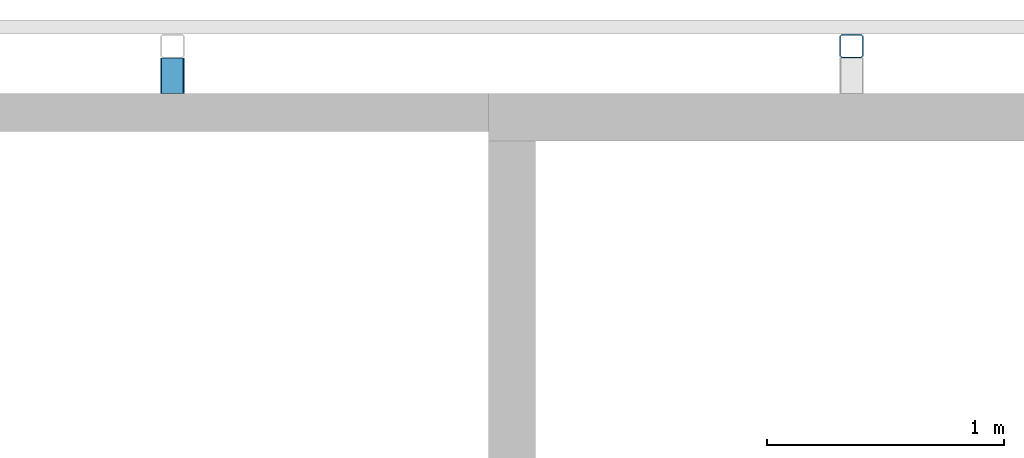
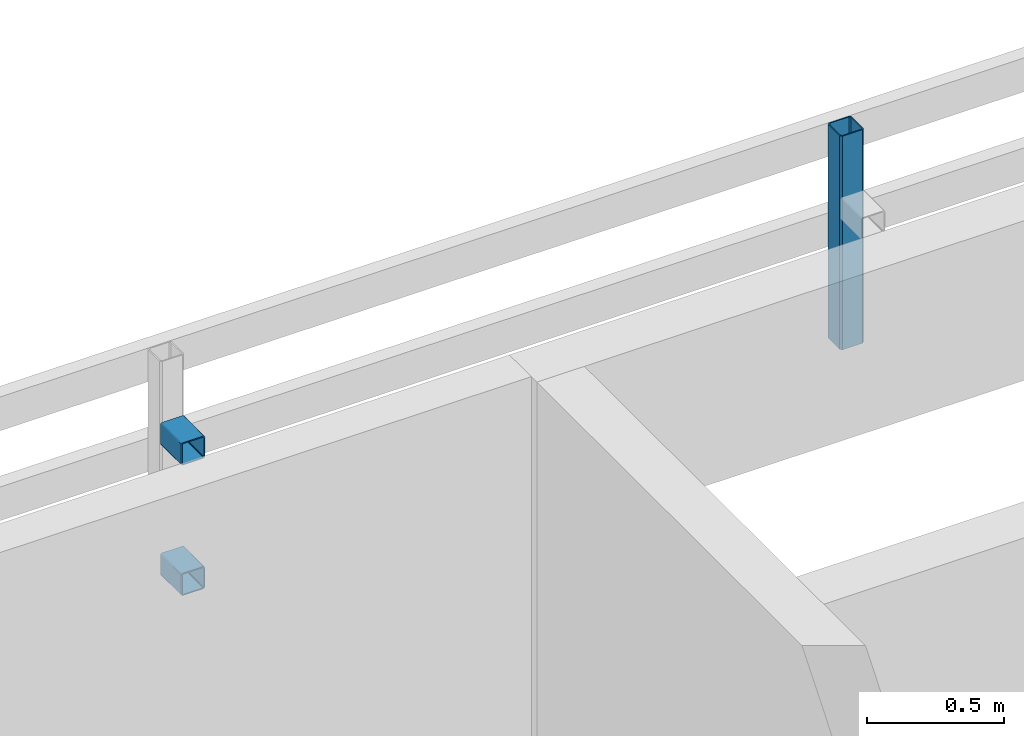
# One storey, part 30 of 42: 3 members.
"""IFC4 building model written with IfcOpenShell, lengths in metres."""

from ifc_helpers import new_model, entity, si_unit, converted_unit, derived_unit, frame, origin, place, context, subcontext, project, spatial, faceted_brep, material, element, save


model = new_model("IFC4")

# Units and contexts
model_context = context("Model", 3, precision=1e-05, world=origin())
plan_context = context("Plan", 2, precision=1e-05, world=origin())
body_context = subcontext(model_context, "Body", "Model", "MODEL_VIEW")
ifc_project = project(units=[si_unit("LENGTHUNIT", "METRE"), si_unit("AREAUNIT", "SQUARE_METRE"), si_unit("VOLUMEUNIT", "CUBIC_METRE"), si_unit("MASSUNIT", "GRAM", prefix="KILO"), converted_unit("PLANEANGLEUNIT", "DEGREE", entity("IfcPlaneAngleMeasure", 0.0174532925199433), si_unit("PLANEANGLEUNIT", "RADIAN"), dimensions=[0, 0, 0, 0, 0, 0, 0]), derived_unit("THERMALTRANSMITTANCEUNIT", [(si_unit("POWERUNIT", "WATT"), 1), (si_unit("THERMODYNAMICTEMPERATUREUNIT", "KELVIN"), -1), (si_unit("LENGTHUNIT", "METRE"), -2)]), derived_unit("VOLUMETRICFLOWRATEUNIT", [(si_unit("LENGTHUNIT", "METRE"), 3), (converted_unit("TIMEUNIT", "hour", entity("IfcTimeMeasure", 3600.0), si_unit("TIMEUNIT", "SECOND"), dimensions=[0, 0, 1, 0, 0, 0, 0]), -1), (si_unit("LENGTHUNIT", "METRE"), -1)])], contexts=[model_context, plan_context])

# Site, building, storey
site_placement = place(None, origin())
site = spatial("IfcSite", under=ifc_project, at=site_placement, Name="Site", CompositionType="ELEMENT")
building_placement = place(site_placement, origin())
building = spatial("IfcBuilding", under=site, at=building_placement, Name="Admin", CompositionType="ELEMENT")
storey_placement = place(building_placement, frame((0.0, 0.0, 6.61)))
storey = spatial("IfcBuildingStorey", under=building, at=storey_placement, Name="02-Etage2", CompositionType="ELEMENT", Elevation=6.61)

# Members
ifc_material_1 = material(Name="S235")
member_1_placement = place(storey_placement, frame((49.6398005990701, 22.4994493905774, 2.28)))
element("IfcMember", 1, at=member_1_placement, inside=storey, material=ifc_material_1, Name="Bandeau R+2", context=body_context, shape_type="Brep", body=[
    faceted_brep([(0.09, 0.005, 0.0), (0.09, 0.005, 0.95), (0.01, 0.005, 0.95), (0.01, 0.005, 0.0), (0.095, 0.01, 0.0), (0.095, 0.01, 0.95), (0.095, 0.09, 0.0), (0.095, 0.09, 0.95), (0.09, 0.095, 0.0), (0.09, 0.095, 0.95), (0.01, 0.095, 0.0), (0.01, 0.095, 0.95), (0.005, 0.09, 0.0), (0.005, 0.09, 0.95), (0.005, 0.01, 0.0), (0.005, 0.01, 0.95), (0.0, 0.0075, 0.0), (0.0, 0.0075, 0.95), (0.0075, 0.0, 0.95), (0.0075, 0.0, 0.0), (0.0, 0.0925, 0.0), (0.0, 0.0925, 0.95), (0.0075, 0.1, 0.0), (0.0075, 0.1, 0.95), (0.0925, 0.1, 0.0), (0.0925, 0.1, 0.95), (0.1, 0.0925, 0.0), (0.1, 0.0925, 0.95), (0.1, 0.0075, 0.0), (0.1, 0.0075, 0.95), (0.0925, 0.0, 0.0), (0.0925, 0.0, 0.95)], [[[0, 1, 2, 3]], [[4, 5, 1, 0]], [[6, 7, 5, 4]], [[8, 9, 7, 6]], [[10, 11, 9, 8]], [[12, 13, 11, 10]], [[14, 15, 13, 12]], [[3, 2, 15, 14]], [[16, 17, 18, 19]], [[20, 21, 17, 16]], [[22, 23, 21, 20]], [[24, 25, 23, 22]], [[26, 27, 25, 24]], [[28, 29, 27, 26]], [[30, 31, 29, 28]], [[19, 18, 31, 30]], [[18, 17, 21, 23, 25, 27, 29, 31], [2, 1, 5, 7, 9, 11, 13, 15]], [[19, 30, 28, 26, 24, 22, 20, 16], [3, 14, 12, 10, 8, 6, 4, 0]]], orient=[[False], [False], [False], [False], [False], [False], [False], [False], [False], [False], [False], [False], [False], [False], [False], [False], [False, False], [False, False]]),
])
ifc_material_2 = material(Name="S235")
member_2_placement = place(storey_placement, frame((46.7798005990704, 22.3494493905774, 2.86)))
element("IfcMember", 2, at=member_2_placement, inside=storey, material=ifc_material_2, Name="Bandeau R+2", context=body_context, shape_type="Brep", body=[
    faceted_brep([(0.0050000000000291, 0.149999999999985, 0.09), (0.0050000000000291, 0.149999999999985, 0.01), (0.00500000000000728, 1.09139364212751e-14, 0.01), (0.00500000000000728, 1.09139364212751e-14, 0.09), (0.00507596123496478, 0.149999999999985, 0.0908682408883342), (0.00507596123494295, 1.09139364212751e-14, 0.0908682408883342), (0.0053015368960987, 0.149999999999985, 0.0917101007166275), (0.00530153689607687, 1.09139364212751e-14, 0.0917101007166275), (0.00566987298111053, 0.149999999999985, 0.0925), (0.0056698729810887, 1.09139364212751e-14, 0.0925), (0.00616977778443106, 0.149999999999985, 0.0932139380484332), (0.00616977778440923, 1.09139364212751e-14, 0.0932139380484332), (0.00678606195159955, 0.149999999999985, 0.0938302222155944), (0.00678606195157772, 1.09139364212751e-14, 0.0938302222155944), (0.0075000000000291, 0.149999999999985, 0.0943301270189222), (0.00750000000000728, 1.09139364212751e-14, 0.0943301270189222), (0.00828989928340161, 0.149999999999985, 0.0946984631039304), (0.00828989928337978, 1.09139364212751e-14, 0.0946984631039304), (0.00913175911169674, 0.149999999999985, 0.0949240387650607), (0.00913175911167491, 1.09139364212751e-14, 0.0949240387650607), (0.0100000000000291, 0.149999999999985, 0.095), (0.0100000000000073, 1.09139364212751e-14, 0.095), (0.0900000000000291, 0.149999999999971, 0.095), (0.0900000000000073, -3.63797880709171e-15, 0.095), (0.0908682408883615, 0.149999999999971, 0.0949240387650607), (0.0908682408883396, -3.63797880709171e-15, 0.0949240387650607), (0.0917101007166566, 0.149999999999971, 0.0946984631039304), (0.0917101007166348, -3.63797880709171e-15, 0.0946984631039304), (0.0925000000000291, 0.149999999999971, 0.0943301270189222), (0.0925000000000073, -3.63797880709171e-15, 0.0943301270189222), (0.0932139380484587, 0.149999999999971, 0.0938302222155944), (0.0932139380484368, -3.63797880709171e-15, 0.0938302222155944), (0.0938302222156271, 0.149999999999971, 0.0932139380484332), (0.0938302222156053, -3.63797880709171e-15, 0.0932139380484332), (0.0943301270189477, 0.149999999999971, 0.0925), (0.0943301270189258, -3.63797880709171e-15, 0.0925), (0.0946984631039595, 0.149999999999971, 0.0917101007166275), (0.0946984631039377, -3.63797880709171e-15, 0.0917101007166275), (0.0949240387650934, 0.149999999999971, 0.0908682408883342), (0.0949240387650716, -3.63797880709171e-15, 0.0908682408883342), (0.0950000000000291, 0.149999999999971, 0.09), (0.0950000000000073, -3.63797880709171e-15, 0.09), (0.0950000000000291, 0.149999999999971, 0.01), (0.0950000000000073, -3.63797880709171e-15, 0.01), (0.0949240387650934, 0.149999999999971, 0.00913175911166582), (0.0949240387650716, -3.63797880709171e-15, 0.00913175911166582), (0.0946984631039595, 0.149999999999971, 0.00828989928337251), (0.0946984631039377, -3.63797880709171e-15, 0.00828989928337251), (0.0943301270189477, 0.149999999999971, 0.0075), (0.0943301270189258, -3.63797880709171e-15, 0.0075), (0.0938302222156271, 0.149999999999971, 0.00678606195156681), (0.0938302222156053, -3.63797880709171e-15, 0.00678606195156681), (0.0932139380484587, 0.149999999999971, 0.0061697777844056), (0.0932139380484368, -3.63797880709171e-15, 0.0061697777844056), (0.0925000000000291, 0.149999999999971, 0.00566987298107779), (0.0925000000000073, -3.63797880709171e-15, 0.00566987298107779), (0.0917101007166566, 0.149999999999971, 0.00530153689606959), (0.0917101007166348, -3.63797880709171e-15, 0.00530153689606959), (0.0908682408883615, 0.149999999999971, 0.00507596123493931), (0.0908682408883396, -3.63797880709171e-15, 0.00507596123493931), (0.0900000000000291, 0.149999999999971, 0.005), (0.0900000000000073, -3.63797880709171e-15, 0.005), (0.0100000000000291, 0.149999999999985, 0.005), (0.0100000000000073, 1.09139364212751e-14, 0.005), (0.00913175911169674, 0.149999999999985, 0.00507596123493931), (0.00913175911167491, 1.09139364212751e-14, 0.00507596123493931), (0.00828989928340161, 0.149999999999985, 0.00530153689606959), (0.00828989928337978, 1.09139364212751e-14, 0.00530153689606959), (0.0075000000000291, 0.149999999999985, 0.00566987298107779), (0.00750000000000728, 1.09139364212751e-14, 0.00566987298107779), (0.00678606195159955, 0.149999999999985, 0.0061697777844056), (0.00678606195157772, 1.09139364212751e-14, 0.0061697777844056), (0.00616977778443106, 0.149999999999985, 0.00678606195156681), (0.00616977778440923, 1.09139364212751e-14, 0.00678606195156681), (0.00566987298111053, 0.149999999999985, 0.0075), (0.0056698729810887, 1.09139364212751e-14, 0.0075), (0.0053015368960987, 0.149999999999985, 0.00828989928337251), (0.00530153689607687, 1.09139364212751e-14, 0.00828989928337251), (0.00507596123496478, 0.149999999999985, 0.00913175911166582), (0.00507596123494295, 1.09139364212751e-14, 0.00913175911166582), (0.0925000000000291, 0.149999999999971, 0.1), (0.0938023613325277, 0.149999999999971, 0.099886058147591), (0.0938023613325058, -3.63797880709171e-15, 0.099886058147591), (0.0925000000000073, -3.63797880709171e-15, 0.1), (0.0075000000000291, 0.149999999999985, 0.1), (0.00750000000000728, 1.09139364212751e-14, 0.1), (0.00619763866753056, 0.149999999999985, 0.099886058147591), (0.00619763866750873, 1.09139364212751e-14, 0.099886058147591), (0.00493484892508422, 0.149999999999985, 0.0995476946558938), (0.0049348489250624, 1.09139364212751e-14, 0.0995476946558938), (0.0037500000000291, 0.149999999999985, 0.0989951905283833), (0.00375000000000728, 1.09139364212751e-14, 0.0989951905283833), (0.0026790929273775, 0.149999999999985, 0.0982453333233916), (0.00267909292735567, 1.09139364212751e-14, 0.0982453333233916), (0.00175466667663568, 0.149999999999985, 0.0973209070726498), (0.00175466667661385, 1.09139364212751e-14, 0.0973209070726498), (0.0010048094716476, 0.149999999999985, 0.09625), (0.00100480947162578, 1.09139364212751e-14, 0.09625), (0.00045230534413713, 0.149999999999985, 0.0950651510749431), (0.000452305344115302, 1.09139364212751e-14, 0.0950651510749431), (0.000113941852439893, 0.149999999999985, 0.0938023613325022), (0.000113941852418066, 1.09139364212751e-14, 0.0938023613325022), (2.91038304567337e-14, 0.149999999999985, 0.0925), (0.0, 1.09139364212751e-14, 0.0925), (0.000113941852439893, 0.149999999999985, 0.00619763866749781), (2.91038304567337e-14, 0.149999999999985, 0.0075), (7.27595761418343e-15, 1.09139364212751e-14, 0.0075), (0.000113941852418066, 1.09139364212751e-14, 0.00619763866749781), (0.00045230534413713, 0.149999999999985, 0.00493484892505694), (0.000452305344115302, 1.09139364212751e-14, 0.00493484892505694), (0.0010048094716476, 0.149999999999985, 0.00375), (0.00100480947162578, 1.09139364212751e-14, 0.00375), (0.00175466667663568, 0.149999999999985, 0.00267909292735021), (0.00175466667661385, 1.09139364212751e-14, 0.00267909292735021), (0.0026790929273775, 0.149999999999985, 0.00175466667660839), (0.00267909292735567, 1.09139364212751e-14, 0.00175466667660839), (0.0037500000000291, 0.149999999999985, 0.00100480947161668), (0.00375000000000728, 1.09139364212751e-14, 0.00100480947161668), (0.00493484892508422, 0.149999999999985, 0.000452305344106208), (0.0049348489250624, 1.09139364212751e-14, 0.000452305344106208), (0.00619763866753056, 0.149999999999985, 0.000113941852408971), (0.00619763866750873, 1.09139364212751e-14, 0.000113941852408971), (0.0075000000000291, 0.149999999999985, 0.0), (0.00750000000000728, 1.09139364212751e-14, 0.0), (0.0925000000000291, 0.149999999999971, 0.0), (0.0925000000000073, -3.63797880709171e-15, 0.0), (0.0938023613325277, 0.149999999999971, 0.000113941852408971), (0.0938023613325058, -3.63797880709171e-15, 0.000113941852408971), (0.095065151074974, 0.149999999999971, 0.000452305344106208), (0.0950651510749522, -3.63797880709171e-15, 0.000452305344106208), (0.0962500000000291, 0.149999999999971, 0.00100480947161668), (0.0962500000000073, -3.63797880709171e-15, 0.00100480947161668), (0.0973209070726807, 0.149999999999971, 0.00175466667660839), (0.0973209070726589, -3.63797880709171e-15, 0.00175466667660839), (0.0982453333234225, 0.149999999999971, 0.00267909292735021), (0.0982453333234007, -3.63797880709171e-15, 0.00267909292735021), (0.0989951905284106, 0.149999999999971, 0.00375), (0.0989951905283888, -3.63797880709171e-15, 0.00375), (0.0995476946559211, 0.149999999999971, 0.00493484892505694), (0.0995476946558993, -3.63797880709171e-15, 0.00493484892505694), (0.0998860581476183, 0.149999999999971, 0.00619763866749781), (0.0998860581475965, -3.63797880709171e-15, 0.00619763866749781), (0.100000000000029, 0.149999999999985, 0.0075), (0.100000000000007, -3.63797880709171e-15, 0.0075), (0.0998860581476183, 0.149999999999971, 0.0938023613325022), (0.100000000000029, 0.149999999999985, 0.0925), (0.100000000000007, -3.63797880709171e-15, 0.0925), (0.0998860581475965, -3.63797880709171e-15, 0.0938023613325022), (0.0995476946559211, 0.149999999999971, 0.0950651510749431), (0.0995476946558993, -3.63797880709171e-15, 0.0950651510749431), (0.0989951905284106, 0.149999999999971, 0.09625), (0.0989951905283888, -3.63797880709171e-15, 0.09625), (0.0982453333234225, 0.149999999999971, 0.0973209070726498), (0.0982453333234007, -3.63797880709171e-15, 0.0973209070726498), (0.0973209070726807, 0.149999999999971, 0.0982453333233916), (0.0973209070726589, -3.63797880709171e-15, 0.0982453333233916), (0.0962500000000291, 0.149999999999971, 0.0989951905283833), (0.0962500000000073, -3.63797880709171e-15, 0.0989951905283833), (0.095065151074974, 0.149999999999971, 0.0995476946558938), (0.0950651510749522, -3.63797880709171e-15, 0.0995476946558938)], [[[0, 1, 2, 3]], [[4, 0, 3, 5]], [[6, 4, 5, 7]], [[8, 6, 7, 9]], [[10, 8, 9, 11]], [[12, 10, 11, 13]], [[14, 12, 13, 15]], [[16, 14, 15, 17]], [[18, 16, 17, 19]], [[20, 18, 19, 21]], [[22, 20, 21, 23]], [[24, 22, 23, 25]], [[26, 24, 25, 27]], [[28, 26, 27, 29]], [[30, 28, 29, 31]], [[32, 30, 31, 33]], [[34, 32, 33, 35]], [[36, 34, 35, 37]], [[38, 36, 37, 39]], [[40, 38, 39, 41]], [[42, 40, 41, 43]], [[44, 42, 43, 45]], [[46, 44, 45, 47]], [[48, 46, 47, 49]], [[50, 48, 49, 51]], [[52, 50, 51, 53]], [[54, 52, 53, 55]], [[56, 54, 55, 57]], [[58, 56, 57, 59]], [[60, 58, 59, 61]], [[62, 60, 61, 63]], [[64, 62, 63, 65]], [[66, 64, 65, 67]], [[68, 66, 67, 69]], [[70, 68, 69, 71]], [[72, 70, 71, 73]], [[74, 72, 73, 75]], [[76, 74, 75, 77]], [[78, 76, 77, 79]], [[1, 78, 79, 2]], [[80, 81, 82, 83]], [[84, 80, 83, 85]], [[86, 84, 85, 87]], [[88, 86, 87, 89]], [[90, 88, 89, 91]], [[92, 90, 91, 93]], [[94, 92, 93, 95]], [[96, 94, 95, 97]], [[98, 96, 97, 99]], [[100, 98, 99, 101]], [[102, 100, 101, 103]], [[104, 105, 106, 107]], [[108, 104, 107, 109]], [[110, 108, 109, 111]], [[112, 110, 111, 113]], [[114, 112, 113, 115]], [[116, 114, 115, 117]], [[118, 116, 117, 119]], [[120, 118, 119, 121]], [[122, 120, 121, 123]], [[124, 122, 123, 125]], [[126, 124, 125, 127]], [[128, 126, 127, 129]], [[130, 128, 129, 131]], [[132, 130, 131, 133]], [[134, 132, 133, 135]], [[136, 134, 135, 137]], [[138, 136, 137, 139]], [[140, 138, 139, 141]], [[142, 140, 141, 143]], [[144, 145, 146, 147]], [[148, 144, 147, 149]], [[150, 148, 149, 151]], [[152, 150, 151, 153]], [[154, 152, 153, 155]], [[156, 154, 155, 157]], [[158, 156, 157, 159]], [[81, 158, 159, 82]], [[146, 143, 141, 139, 137, 135, 133, 131, 129, 127, 125, 123, 121, 119, 117, 115, 113, 111, 109, 107, 106, 103, 101, 99, 97, 95, 93, 91, 89, 87, 85, 83, 82, 159, 157, 155, 153, 151, 149, 147], [2, 79, 77, 75, 73, 71, 69, 67, 65, 63, 61, 59, 57, 55, 53, 51, 49, 47, 45, 43, 41, 39, 37, 35, 33, 31, 29, 27, 25, 23, 21, 19, 17, 15, 13, 11, 9, 7, 5, 3]], [[103, 106, 105, 102]], [[102, 105, 104, 108, 110, 112, 114, 116, 118, 120, 122, 124, 126, 128, 130, 132, 134, 136, 138, 140, 142, 145, 144, 148, 150, 152, 154, 156, 158, 81, 80, 84, 86, 88, 90, 92, 94, 96, 98, 100], [1, 0, 4, 6, 8, 10, 12, 14, 16, 18, 20, 22, 24, 26, 28, 30, 32, 34, 36, 38, 40, 42, 44, 46, 48, 50, 52, 54, 56, 58, 60, 62, 64, 66, 68, 70, 72, 74, 76, 78]], [[145, 142, 143, 146]]], orient=[[False], [False], [False], [False], [False], [False], [False], [False], [False], [False], [False], [False], [False], [False], [False], [False], [False], [False], [False], [False], [False], [False], [False], [False], [False], [False], [False], [False], [False], [False], [False], [False], [False], [False], [False], [False], [False], [False], [False], [False], [False], [False], [False], [False], [False], [False], [False], [False], [False], [False], [False], [False], [False], [False], [False], [False], [False], [False], [False], [False], [False], [False], [False], [False], [False], [False], [False], [False], [False], [False], [False], [False], [False], [False], [False], [False], [False], [False], [False, False], [False], [False, False], [False]]),
])
ifc_material_3 = material(Name="S235")
member_3_placement = place(storey_placement, frame((46.7798005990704, 22.3494493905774, 2.28)))
element("IfcMember", 3, at=member_3_placement, inside=storey, material=ifc_material_3, Name="Bandeau R+2", context=body_context, shape_type="Brep", body=[
    faceted_brep([(0.0050000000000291, 0.15, 0.09), (0.0050000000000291, 0.15, 0.01), (0.00500000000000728, 1.81898940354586e-14, 0.01), (0.00500000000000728, 1.81898940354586e-14, 0.09), (0.00507596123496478, 0.15, 0.0908682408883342), (0.00507596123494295, 1.81898940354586e-14, 0.0908682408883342), (0.0053015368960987, 0.15, 0.0917101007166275), (0.00530153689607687, 1.81898940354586e-14, 0.0917101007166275), (0.00566987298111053, 0.15, 0.0925), (0.0056698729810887, 1.81898940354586e-14, 0.0925), (0.00616977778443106, 0.15, 0.0932139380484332), (0.00616977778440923, 1.81898940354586e-14, 0.0932139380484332), (0.00678606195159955, 0.15, 0.0938302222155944), (0.00678606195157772, 1.81898940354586e-14, 0.0938302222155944), (0.0075000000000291, 0.15, 0.0943301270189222), (0.00750000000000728, 1.81898940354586e-14, 0.0943301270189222), (0.00828989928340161, 0.15, 0.0946984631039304), (0.00828989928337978, 1.81898940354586e-14, 0.0946984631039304), (0.00913175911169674, 0.15, 0.0949240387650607), (0.00913175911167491, 1.81898940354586e-14, 0.0949240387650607), (0.0100000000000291, 0.15, 0.095), (0.0100000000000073, 1.81898940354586e-14, 0.095), (0.0900000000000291, 0.149999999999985, 0.095), (0.0900000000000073, 3.63797880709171e-15, 0.095), (0.0908682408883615, 0.149999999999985, 0.0949240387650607), (0.0908682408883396, 3.63797880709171e-15, 0.0949240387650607), (0.0917101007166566, 0.149999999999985, 0.0946984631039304), (0.0917101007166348, 3.63797880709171e-15, 0.0946984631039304), (0.0925000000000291, 0.149999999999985, 0.0943301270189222), (0.0925000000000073, 3.63797880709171e-15, 0.0943301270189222), (0.0932139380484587, 0.149999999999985, 0.0938302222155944), (0.0932139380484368, 3.63797880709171e-15, 0.0938302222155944), (0.0938302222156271, 0.149999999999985, 0.0932139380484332), (0.0938302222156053, 3.63797880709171e-15, 0.0932139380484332), (0.0943301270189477, 0.149999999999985, 0.0925), (0.0943301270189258, 3.63797880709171e-15, 0.0925), (0.0946984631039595, 0.149999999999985, 0.0917101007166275), (0.0946984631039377, 3.63797880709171e-15, 0.0917101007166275), (0.0949240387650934, 0.149999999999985, 0.0908682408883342), (0.0949240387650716, 3.63797880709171e-15, 0.0908682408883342), (0.0950000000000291, 0.149999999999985, 0.09), (0.0950000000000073, 3.63797880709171e-15, 0.09), (0.0950000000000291, 0.149999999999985, 0.01), (0.0950000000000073, 3.63797880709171e-15, 0.01), (0.0949240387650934, 0.149999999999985, 0.00913175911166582), (0.0949240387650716, 3.63797880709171e-15, 0.00913175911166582), (0.0946984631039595, 0.149999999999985, 0.00828989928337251), (0.0946984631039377, 3.63797880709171e-15, 0.00828989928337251), (0.0943301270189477, 0.149999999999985, 0.0075), (0.0943301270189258, 3.63797880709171e-15, 0.0075), (0.0938302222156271, 0.149999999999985, 0.00678606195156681), (0.0938302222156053, 3.63797880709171e-15, 0.00678606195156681), (0.0932139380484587, 0.149999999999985, 0.0061697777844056), (0.0932139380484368, 3.63797880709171e-15, 0.0061697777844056), (0.0925000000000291, 0.149999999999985, 0.00566987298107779), (0.0925000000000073, 3.63797880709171e-15, 0.00566987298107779), (0.0917101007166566, 0.149999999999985, 0.00530153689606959), (0.0917101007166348, 3.63797880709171e-15, 0.00530153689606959), (0.0908682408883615, 0.149999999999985, 0.00507596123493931), (0.0908682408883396, 3.63797880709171e-15, 0.00507596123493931), (0.0900000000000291, 0.149999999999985, 0.005), (0.0900000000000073, 3.63797880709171e-15, 0.005), (0.0100000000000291, 0.15, 0.005), (0.0100000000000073, 1.81898940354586e-14, 0.005), (0.00913175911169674, 0.15, 0.00507596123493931), (0.00913175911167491, 1.81898940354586e-14, 0.00507596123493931), (0.00828989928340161, 0.15, 0.00530153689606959), (0.00828989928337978, 1.81898940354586e-14, 0.00530153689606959), (0.0075000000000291, 0.15, 0.00566987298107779), (0.00750000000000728, 1.81898940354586e-14, 0.00566987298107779), (0.00678606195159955, 0.15, 0.0061697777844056), (0.00678606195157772, 1.81898940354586e-14, 0.0061697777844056), (0.00616977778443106, 0.15, 0.00678606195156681), (0.00616977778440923, 1.81898940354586e-14, 0.00678606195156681), (0.00566987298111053, 0.15, 0.0075), (0.0056698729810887, 1.81898940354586e-14, 0.0075), (0.0053015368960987, 0.15, 0.00828989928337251), (0.00530153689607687, 1.81898940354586e-14, 0.00828989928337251), (0.00507596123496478, 0.15, 0.00913175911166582), (0.00507596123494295, 1.81898940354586e-14, 0.00913175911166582), (0.0925000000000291, 0.149999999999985, 0.1), (0.0938023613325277, 0.149999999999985, 0.099886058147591), (0.0938023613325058, 3.63797880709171e-15, 0.099886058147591), (0.0925000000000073, 3.63797880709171e-15, 0.1), (0.0075000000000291, 0.15, 0.1), (0.00750000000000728, 1.81898940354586e-14, 0.1), (0.00619763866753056, 0.15, 0.099886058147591), (0.00619763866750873, 1.81898940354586e-14, 0.099886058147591), (0.00493484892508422, 0.15, 0.0995476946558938), (0.0049348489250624, 1.81898940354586e-14, 0.0995476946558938), (0.0037500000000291, 0.15, 0.0989951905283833), (0.00375000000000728, 1.81898940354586e-14, 0.0989951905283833), (0.0026790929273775, 0.15, 0.0982453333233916), (0.00267909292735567, 1.81898940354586e-14, 0.0982453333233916), (0.00175466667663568, 0.15, 0.0973209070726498), (0.00175466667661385, 1.81898940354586e-14, 0.0973209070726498), (0.0010048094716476, 0.15, 0.09625), (0.00100480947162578, 1.81898940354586e-14, 0.09625), (0.00045230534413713, 0.15, 0.0950651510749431), (0.000452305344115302, 1.81898940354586e-14, 0.0950651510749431), (0.000113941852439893, 0.15, 0.0938023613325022), (0.000113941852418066, 1.81898940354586e-14, 0.0938023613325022), (2.91038304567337e-14, 0.15, 0.0925), (0.0, 1.81898940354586e-14, 0.0925), (0.000113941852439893, 0.15, 0.00619763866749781), (2.91038304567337e-14, 0.15, 0.0075), (7.27595761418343e-15, 1.81898940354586e-14, 0.0075), (0.000113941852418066, 1.81898940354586e-14, 0.00619763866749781), (0.00045230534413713, 0.15, 0.00493484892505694), (0.000452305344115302, 1.81898940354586e-14, 0.00493484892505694), (0.0010048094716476, 0.15, 0.00375), (0.00100480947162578, 1.81898940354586e-14, 0.00375), (0.00175466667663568, 0.15, 0.00267909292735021), (0.00175466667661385, 1.81898940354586e-14, 0.00267909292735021), (0.0026790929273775, 0.15, 0.00175466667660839), (0.00267909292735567, 1.81898940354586e-14, 0.00175466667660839), (0.0037500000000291, 0.15, 0.00100480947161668), (0.00375000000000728, 1.81898940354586e-14, 0.00100480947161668), (0.00493484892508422, 0.15, 0.000452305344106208), (0.0049348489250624, 1.81898940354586e-14, 0.000452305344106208), (0.00619763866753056, 0.15, 0.000113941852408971), (0.00619763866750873, 1.81898940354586e-14, 0.000113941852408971), (0.0075000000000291, 0.15, 0.0), (0.00750000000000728, 1.81898940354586e-14, 0.0), (0.0925000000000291, 0.149999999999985, 0.0), (0.0925000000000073, 3.63797880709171e-15, 0.0), (0.0938023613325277, 0.149999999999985, 0.000113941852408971), (0.0938023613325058, 3.63797880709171e-15, 0.000113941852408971), (0.095065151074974, 0.149999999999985, 0.000452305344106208), (0.0950651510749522, 3.63797880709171e-15, 0.000452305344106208), (0.0962500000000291, 0.149999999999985, 0.00100480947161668), (0.0962500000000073, 3.63797880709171e-15, 0.00100480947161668), (0.0973209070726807, 0.149999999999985, 0.00175466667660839), (0.0973209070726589, 3.63797880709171e-15, 0.00175466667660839), (0.0982453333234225, 0.149999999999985, 0.00267909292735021), (0.0982453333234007, 3.63797880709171e-15, 0.00267909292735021), (0.0989951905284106, 0.149999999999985, 0.00375), (0.0989951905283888, 3.63797880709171e-15, 0.00375), (0.0995476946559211, 0.149999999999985, 0.00493484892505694), (0.0995476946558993, 3.63797880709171e-15, 0.00493484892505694), (0.0998860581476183, 0.149999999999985, 0.00619763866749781), (0.0998860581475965, 3.63797880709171e-15, 0.00619763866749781), (0.100000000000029, 0.15, 0.0075), (0.100000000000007, 3.63797880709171e-15, 0.0075), (0.0998860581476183, 0.149999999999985, 0.0938023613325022), (0.100000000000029, 0.15, 0.0925), (0.100000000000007, 3.63797880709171e-15, 0.0925), (0.0998860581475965, 3.63797880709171e-15, 0.0938023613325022), (0.0995476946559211, 0.149999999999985, 0.0950651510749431), (0.0995476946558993, 3.63797880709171e-15, 0.0950651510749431), (0.0989951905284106, 0.149999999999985, 0.09625), (0.0989951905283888, 3.63797880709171e-15, 0.09625), (0.0982453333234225, 0.149999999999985, 0.0973209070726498), (0.0982453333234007, 3.63797880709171e-15, 0.0973209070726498), (0.0973209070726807, 0.149999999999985, 0.0982453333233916), (0.0973209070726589, 3.63797880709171e-15, 0.0982453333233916), (0.0962500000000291, 0.149999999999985, 0.0989951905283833), (0.0962500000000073, 3.63797880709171e-15, 0.0989951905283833), (0.095065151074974, 0.149999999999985, 0.0995476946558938), (0.0950651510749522, 3.63797880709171e-15, 0.0995476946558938)], [[[0, 1, 2, 3]], [[4, 0, 3, 5]], [[6, 4, 5, 7]], [[8, 6, 7, 9]], [[10, 8, 9, 11]], [[12, 10, 11, 13]], [[14, 12, 13, 15]], [[16, 14, 15, 17]], [[18, 16, 17, 19]], [[20, 18, 19, 21]], [[22, 20, 21, 23]], [[24, 22, 23, 25]], [[26, 24, 25, 27]], [[28, 26, 27, 29]], [[30, 28, 29, 31]], [[32, 30, 31, 33]], [[34, 32, 33, 35]], [[36, 34, 35, 37]], [[38, 36, 37, 39]], [[40, 38, 39, 41]], [[42, 40, 41, 43]], [[44, 42, 43, 45]], [[46, 44, 45, 47]], [[48, 46, 47, 49]], [[50, 48, 49, 51]], [[52, 50, 51, 53]], [[54, 52, 53, 55]], [[56, 54, 55, 57]], [[58, 56, 57, 59]], [[60, 58, 59, 61]], [[62, 60, 61, 63]], [[64, 62, 63, 65]], [[66, 64, 65, 67]], [[68, 66, 67, 69]], [[70, 68, 69, 71]], [[72, 70, 71, 73]], [[74, 72, 73, 75]], [[76, 74, 75, 77]], [[78, 76, 77, 79]], [[1, 78, 79, 2]], [[80, 81, 82, 83]], [[84, 80, 83, 85]], [[86, 84, 85, 87]], [[88, 86, 87, 89]], [[90, 88, 89, 91]], [[92, 90, 91, 93]], [[94, 92, 93, 95]], [[96, 94, 95, 97]], [[98, 96, 97, 99]], [[100, 98, 99, 101]], [[102, 100, 101, 103]], [[104, 105, 106, 107]], [[108, 104, 107, 109]], [[110, 108, 109, 111]], [[112, 110, 111, 113]], [[114, 112, 113, 115]], [[116, 114, 115, 117]], [[118, 116, 117, 119]], [[120, 118, 119, 121]], [[122, 120, 121, 123]], [[124, 122, 123, 125]], [[126, 124, 125, 127]], [[128, 126, 127, 129]], [[130, 128, 129, 131]], [[132, 130, 131, 133]], [[134, 132, 133, 135]], [[136, 134, 135, 137]], [[138, 136, 137, 139]], [[140, 138, 139, 141]], [[142, 140, 141, 143]], [[144, 145, 146, 147]], [[148, 144, 147, 149]], [[150, 148, 149, 151]], [[152, 150, 151, 153]], [[154, 152, 153, 155]], [[156, 154, 155, 157]], [[158, 156, 157, 159]], [[81, 158, 159, 82]], [[146, 143, 141, 139, 137, 135, 133, 131, 129, 127, 125, 123, 121, 119, 117, 115, 113, 111, 109, 107, 106, 103, 101, 99, 97, 95, 93, 91, 89, 87, 85, 83, 82, 159, 157, 155, 153, 151, 149, 147], [2, 79, 77, 75, 73, 71, 69, 67, 65, 63, 61, 59, 57, 55, 53, 51, 49, 47, 45, 43, 41, 39, 37, 35, 33, 31, 29, 27, 25, 23, 21, 19, 17, 15, 13, 11, 9, 7, 5, 3]], [[103, 106, 105, 102]], [[102, 105, 104, 108, 110, 112, 114, 116, 118, 120, 122, 124, 126, 128, 130, 132, 134, 136, 138, 140, 142, 145, 144, 148, 150, 152, 154, 156, 158, 81, 80, 84, 86, 88, 90, 92, 94, 96, 98, 100], [1, 0, 4, 6, 8, 10, 12, 14, 16, 18, 20, 22, 24, 26, 28, 30, 32, 34, 36, 38, 40, 42, 44, 46, 48, 50, 52, 54, 56, 58, 60, 62, 64, 66, 68, 70, 72, 74, 76, 78]], [[145, 142, 143, 146]]], orient=[[False], [False], [False], [False], [False], [False], [False], [False], [False], [False], [False], [False], [False], [False], [False], [False], [False], [False], [False], [False], [False], [False], [False], [False], [False], [False], [False], [False], [False], [False], [False], [False], [False], [False], [False], [False], [False], [False], [False], [False], [False], [False], [False], [False], [False], [False], [False], [False], [False], [False], [False], [False], [False], [False], [False], [False], [False], [False], [False], [False], [False], [False], [False], [False], [False], [False], [False], [False], [False], [False], [False], [False], [False], [False], [False], [False], [False], [False], [False, False], [False], [False, False], [False]]),
])

save(model, "model.ifc")
